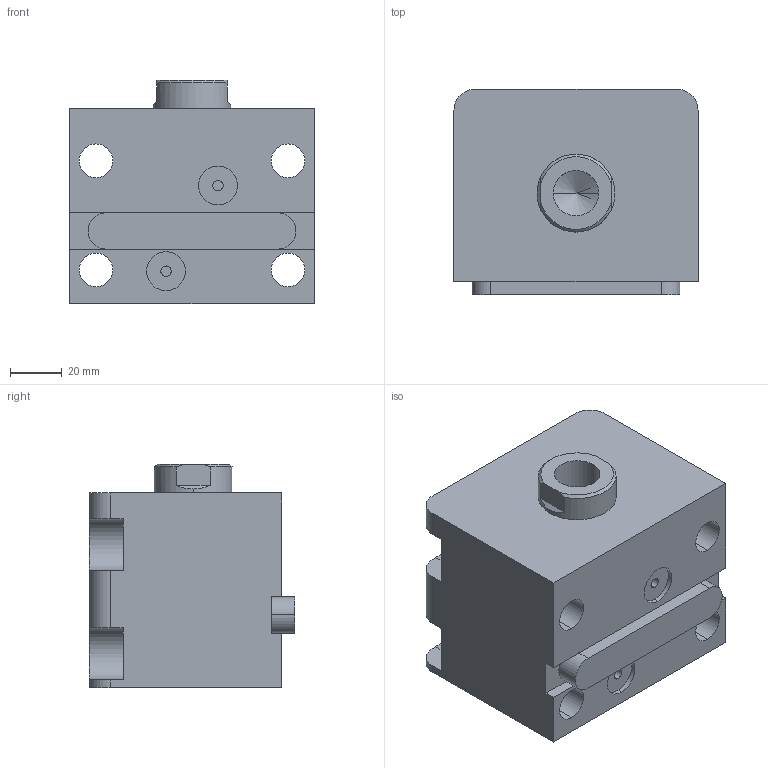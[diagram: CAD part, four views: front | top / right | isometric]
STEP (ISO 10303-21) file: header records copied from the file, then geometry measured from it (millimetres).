
FILE_DESCRIPTION (( 'STEP AP203' ), '1' );
FILE_NAME ('HTB-LAM50-15N.STEP', '2023-03-20T00:43:07', ( '微软用户' ), ( '微软中国' ), 'SwSTEP 2.0', 'SolidWorks 2012', '' );
FILE_SCHEMA (( 'CONFIG_CONTROL_DESIGN' ));
Length unit declared in the file: millimetre
Products named in the file (4): HTB-LAM50-15N; HTB-LWM50-瑩; HTB-LAM50-15N活塞杆; HTB-LAM50-15掛极
Assembly tree (3 placements, depth 2):
  HTB-LAM50-15N
    HTB-LAM50-15掛极
    HTB-LAM50-15N活塞杆
    HTB-LWM50-瑩
Bounding box: 94 x 79 x 86 mm (x, y, z)
Volume: 455360 mm3; surface area: 78538.5 mm2
Topology: 3 solids, 3 shells, 86 faces, 213 edges, 139 vertices
Faces by surface type: cylinder 39, plane 39, torus 4, cone 4
Entity records: 3001 total; most frequent: DIRECTION 475, CARTESIAN_POINT 470, ORIENTED_EDGE 422, EDGE_CURVE 211, AXIS2_PLACEMENT_3D 180, VERTEX_POINT 139, VECTOR 115, LINE 115
